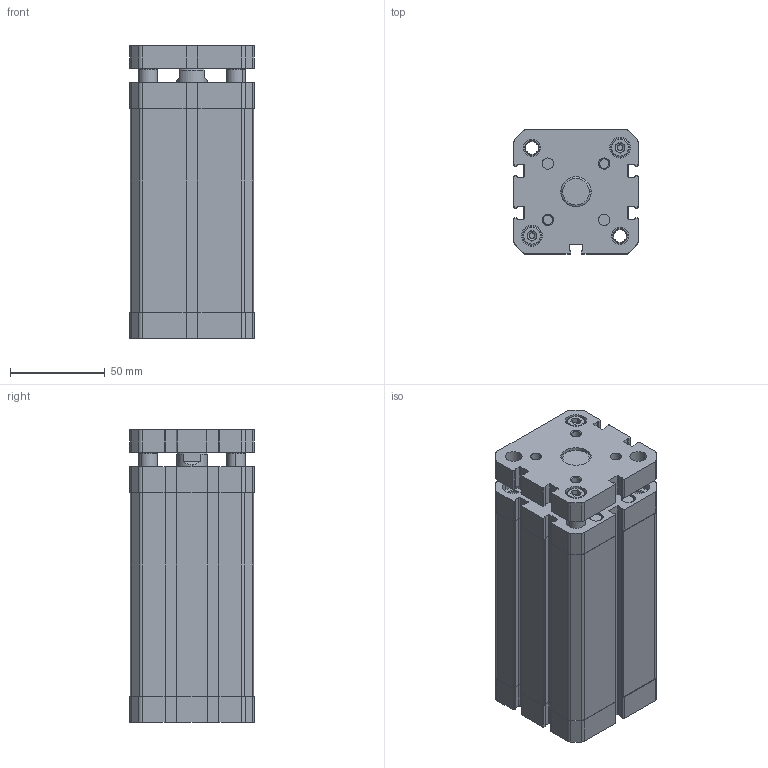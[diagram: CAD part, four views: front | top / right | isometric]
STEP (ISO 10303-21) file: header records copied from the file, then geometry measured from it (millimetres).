
FILE_DESCRIPTION (( 'STEP AP214' ), '1' );
FILE_NAME ('WPCG-050-0090 (3D).STEP', '2020-08-06T08:43:08', ( '' ), ( '' ), 'SwSTEP 2.0', 'SolidWorks 2016', '' );
FILE_SCHEMA (( 'AUTOMOTIVE_DESIGN' ));
Length unit declared in the file: millimetre
Products named in the file (3): Group1^WPCG-050-0090 (3D); WPCG-050-0090 (3D); Group2^WPCG-050-0090 (3D)
Assembly tree (2 placements, depth 2):
  WPCG-050-0090 (3D)
    Group1^WPCG-050-0090 (3D)
    Group2^WPCG-050-0090 (3D)
Bounding box: 65.5 x 65.5 x 154.6 mm (x, y, z)
Volume: 402012.9 mm3; surface area: 135895.1 mm2
Topology: 18 solids, 19 shells, 932 faces, 2432 edges, 1587 vertices
Faces by surface type: plane 436, cylinder 324, bspline 108, cone 52, torus 12
Entity records: 37045 total; most frequent: CARTESIAN_POINT 11338, ORIENTED_EDGE 4852, DIRECTION 4618, EDGE_CURVE 2426, VERTEX_POINT 1587, AXIS2_PLACEMENT_3D 1571, LINE 1476, VECTOR 1476
